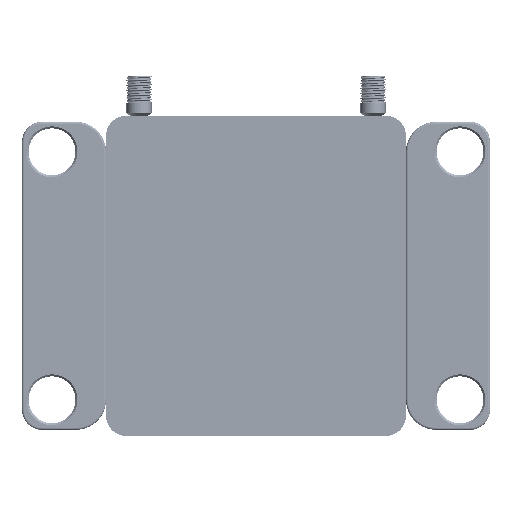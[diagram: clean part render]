
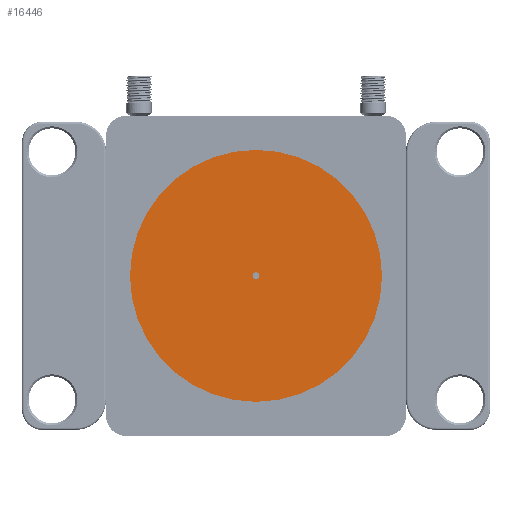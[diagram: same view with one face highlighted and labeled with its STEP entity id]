
A CAD part, front view. The second image highlights one B-rep face of the part: STEP entity #16446.
In plain terms, the highlighted planar face has unit normal (0, -1, 0) as drawn and (0, 1, 0) by its records, which use the part's own axes.
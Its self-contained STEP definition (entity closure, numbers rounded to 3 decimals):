
#702 = ORIENTED_EDGE ( 'NONE', *, *, #14231, .T. ) ;
#1233 = CARTESIAN_POINT ( 'NONE',  ( 0., 9.75, 1.75 ) ) ;
#3799 = AXIS2_PLACEMENT_3D ( 'NONE', #7472, #46936, #61717 ) ;
#5808 = CIRCLE ( 'NONE', #8980, 1.75 ) ;
#5938 = DIRECTION ( 'NONE',  ( 0., 1., 0. ) ) ;
#7472 = CARTESIAN_POINT ( 'NONE',  ( 0., 9.75, 0. ) ) ;
#8980 = AXIS2_PLACEMENT_3D ( 'NONE', #40081, #15401, #50245 ) ;
#9031 = EDGE_CURVE ( 'NONE', #25832, #24499, #24311, .T. ) ;
#10123 = ORIENTED_EDGE ( 'NONE', *, *, #9031, .F. ) ;
#11337 = DIRECTION ( 'NONE',  ( 0., 0., 1. ) ) ;
#12011 = CARTESIAN_POINT ( 'NONE',  ( 0., 9.75, 0. ) ) ;
#13954 = CARTESIAN_POINT ( 'NONE',  ( 0., 9.75, -1.75 ) ) ;
#14231 = EDGE_CURVE ( 'NONE', #26542, #59586, #15350, .T. ) ;
#14731 = EDGE_LOOP ( 'NONE', ( #702, #17546 ) ) ;
#15350 = CIRCLE ( 'NONE', #3799, 63. ) ;
#15401 = DIRECTION ( 'NONE',  ( 0., 1., 0. ) ) ;
#16129 = CARTESIAN_POINT ( 'NONE',  ( 0., 9.75, 0. ) ) ;
#16446 = ADVANCED_FACE ( 'NONE', ( #56377, #40938 ), #51118, .T. ) ;
#17546 = ORIENTED_EDGE ( 'NONE', *, *, #31876, .T. ) ;
#20559 = DIRECTION ( 'NONE',  ( 0., 1., 0. ) ) ;
#24311 = CIRCLE ( 'NONE', #57961, 1.75 ) ;
#24490 = EDGE_CURVE ( 'NONE', #24499, #25832, #5808, .T. ) ;
#24499 = VERTEX_POINT ( 'NONE', #1233 ) ;
#25832 = VERTEX_POINT ( 'NONE', #13954 ) ;
#25991 = DIRECTION ( 'NONE',  ( 0., 0., 1. ) ) ;
#26542 = VERTEX_POINT ( 'NONE', #47654 ) ;
#27755 = AXIS2_PLACEMENT_3D ( 'NONE', #12011, #20559, #11337 ) ;
#31876 = EDGE_CURVE ( 'NONE', #59586, #26542, #41951, .T. ) ;
#40081 = CARTESIAN_POINT ( 'NONE',  ( 0., 9.75, 0. ) ) ;
#40938 = FACE_BOUND ( 'NONE', #63833, .T. ) ;
#41951 = CIRCLE ( 'NONE', #59781, 63. ) ;
#46223 = DIRECTION ( 'NONE',  ( 0., 0., 1. ) ) ;
#46936 = DIRECTION ( 'NONE',  ( 0., 1., 0. ) ) ;
#47654 = CARTESIAN_POINT ( 'NONE',  ( 0., 9.75, -63. ) ) ;
#50083 = CARTESIAN_POINT ( 'NONE',  ( 0., 9.75, 63. ) ) ;
#50245 = DIRECTION ( 'NONE',  ( 0., 0., 1. ) ) ;
#51118 = PLANE ( 'NONE',  #27755 ) ;
#51142 = CARTESIAN_POINT ( 'NONE',  ( 0., 9.75, 0. ) ) ;
#56078 = DIRECTION ( 'NONE',  ( 0., 1., 0. ) ) ;
#56377 = FACE_OUTER_BOUND ( 'NONE', #14731, .T. ) ;
#57961 = AXIS2_PLACEMENT_3D ( 'NONE', #51142, #56078, #46223 ) ;
#59586 = VERTEX_POINT ( 'NONE', #50083 ) ;
#59781 = AXIS2_PLACEMENT_3D ( 'NONE', #16129, #5938, #25991 ) ;
#61717 = DIRECTION ( 'NONE',  ( 0., 0., 1. ) ) ;
#63502 = ORIENTED_EDGE ( 'NONE', *, *, #24490, .F. ) ;
#63833 = EDGE_LOOP ( 'NONE', ( #10123, #63502 ) ) ;
